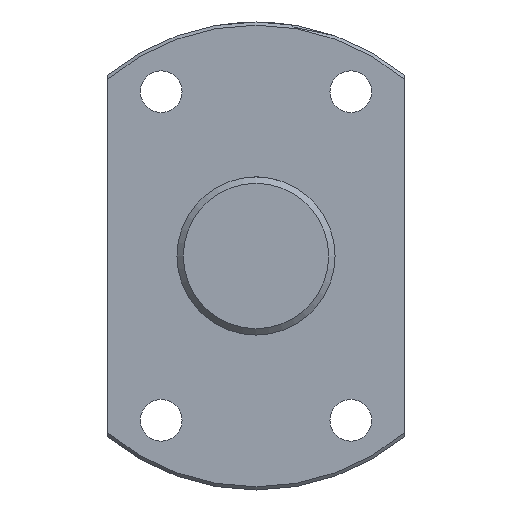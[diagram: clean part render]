
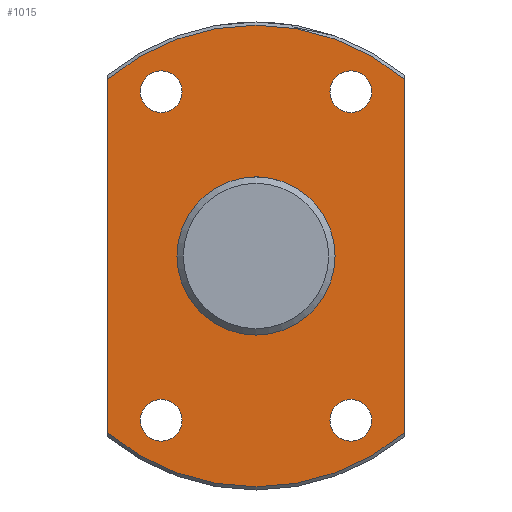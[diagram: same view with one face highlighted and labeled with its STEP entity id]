
A CAD part, left-side view. The second image highlights one B-rep face of the part: STEP entity #1015.
In plain terms, the highlighted planar face has unit normal (-1, 0, 0).
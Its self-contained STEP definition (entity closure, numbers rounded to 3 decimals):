
#315=CARTESIAN_POINT('',(447.274,-23.5,27.928));
#316=VERTEX_POINT('',#315);
#341=CARTESIAN_POINT('',(447.274,23.5,27.928));
#342=VERTEX_POINT('',#341);
#356=CARTESIAN_POINT('',(447.274,0.0,0.0));
#357=DIRECTION('',(1.0,0.0,0.0));
#358=DIRECTION('',(0.0,1.0,0.0));
#359=AXIS2_PLACEMENT_3D('',#356,#357,#358);
#360=CIRCLE('',#359,36.5);
#361=EDGE_CURVE('',#342,#316,#360,.T.);
#478=CARTESIAN_POINT('',(447.274,-23.5,-27.928));
#479=VERTEX_POINT('',#478);
#480=CARTESIAN_POINT('',(447.274,-23.5,27.928));
#481=DIRECTION('',(0.0,0.0,-1.0));
#482=VECTOR('',#481,55.857);
#483=LINE('',#480,#482);
#484=EDGE_CURVE('',#316,#479,#483,.T.);
#560=CARTESIAN_POINT('',(447.274,23.5,-27.928));
#561=VERTEX_POINT('',#560);
#585=CARTESIAN_POINT('',(447.274,0.0,0.0));
#586=DIRECTION('',(1.0,0.0,0.0));
#587=DIRECTION('',(0.0,1.0,0.0));
#588=AXIS2_PLACEMENT_3D('',#585,#586,#587);
#589=CIRCLE('',#588,36.5);
#590=EDGE_CURVE('',#479,#561,#589,.T.);
#671=CARTESIAN_POINT('',(447.274,23.5,-27.928));
#672=DIRECTION('',(0.0,0.0,1.0));
#673=VECTOR('',#672,55.857);
#674=LINE('',#671,#673);
#675=EDGE_CURVE('',#561,#342,#674,.T.);
#897=CARTESIAN_POINT('',(447.274,12.5,0.));
#898=VERTEX_POINT('',#897);
#899=CARTESIAN_POINT('',(447.274,0.0,0.0));
#900=DIRECTION('',(1.0,0.0,0.0));
#901=DIRECTION('',(0.0,-1.0,0.0));
#902=AXIS2_PLACEMENT_3D('',#899,#900,#901);
#903=CIRCLE('',#902,12.5);
#904=EDGE_CURVE('',#898,#898,#903,.T.);
#917=CARTESIAN_POINT('',(447.274,18.3,-25.981));
#918=VERTEX_POINT('',#917);
#919=CARTESIAN_POINT('',(447.274,15.,-25.981));
#920=DIRECTION('',(1.0,0.0,0.0));
#921=DIRECTION('',(0.0,1.0,0.0));
#922=AXIS2_PLACEMENT_3D('',#919,#920,#921);
#923=CIRCLE('',#922,3.3);
#924=EDGE_CURVE('',#918,#918,#923,.T.);
#937=CARTESIAN_POINT('',(447.274,-11.7,25.981));
#938=VERTEX_POINT('',#937);
#939=CARTESIAN_POINT('',(447.274,-15.,25.981));
#940=DIRECTION('',(1.0,0.0,0.0));
#941=DIRECTION('',(0.0,1.0,0.0));
#942=AXIS2_PLACEMENT_3D('',#939,#940,#941);
#943=CIRCLE('',#942,3.3);
#944=EDGE_CURVE('',#938,#938,#943,.T.);
#957=CARTESIAN_POINT('',(447.274,18.3,25.981));
#958=VERTEX_POINT('',#957);
#959=CARTESIAN_POINT('',(447.274,15.,25.981));
#960=DIRECTION('',(1.0,0.0,0.0));
#961=DIRECTION('',(0.0,1.0,0.0));
#962=AXIS2_PLACEMENT_3D('',#959,#960,#961);
#963=CIRCLE('',#962,3.3);
#964=EDGE_CURVE('',#958,#958,#963,.T.);
#977=CARTESIAN_POINT('',(447.274,-11.7,-25.981));
#978=VERTEX_POINT('',#977);
#979=CARTESIAN_POINT('',(447.274,-15.,-25.981));
#980=DIRECTION('',(1.0,0.0,0.0));
#981=DIRECTION('',(0.0,1.0,0.0));
#982=AXIS2_PLACEMENT_3D('',#979,#980,#981);
#983=CIRCLE('',#982,3.3);
#984=EDGE_CURVE('',#978,#978,#983,.T.);
#989=CARTESIAN_POINT('',(447.274,0.0,0.0));
#990=DIRECTION('',(-1.0,0.0,0.0));
#991=DIRECTION('',(0.0,0.0,1.0));
#992=AXIS2_PLACEMENT_3D('',#989,#990,#991);
#993=PLANE('',#992);
#994=ORIENTED_EDGE('',*,*,#361,.F.);
#995=ORIENTED_EDGE('',*,*,#675,.F.);
#996=ORIENTED_EDGE('',*,*,#590,.F.);
#997=ORIENTED_EDGE('',*,*,#484,.F.);
#998=EDGE_LOOP('',(#994,#995,#996,#997));
#999=FACE_OUTER_BOUND('',#998,.T.);
#1000=ORIENTED_EDGE('',*,*,#904,.T.);
#1001=EDGE_LOOP('',(#1000));
#1002=FACE_BOUND('',#1001,.T.);
#1003=ORIENTED_EDGE('',*,*,#924,.T.);
#1004=EDGE_LOOP('',(#1003));
#1005=FACE_BOUND('',#1004,.T.);
#1006=ORIENTED_EDGE('',*,*,#944,.T.);
#1007=EDGE_LOOP('',(#1006));
#1008=FACE_BOUND('',#1007,.T.);
#1009=ORIENTED_EDGE('',*,*,#964,.T.);
#1010=EDGE_LOOP('',(#1009));
#1011=FACE_BOUND('',#1010,.T.);
#1012=ORIENTED_EDGE('',*,*,#984,.T.);
#1013=EDGE_LOOP('',(#1012));
#1014=FACE_BOUND('',#1013,.T.);
#1015=ADVANCED_FACE('',(#999,#1002,#1005,#1008,#1011,#1014),#993,.T.);
